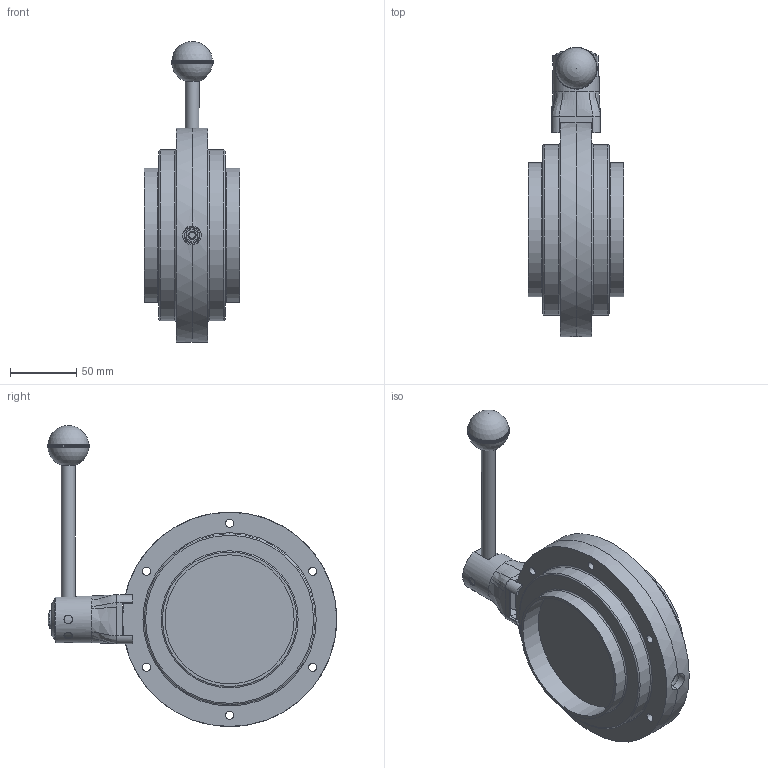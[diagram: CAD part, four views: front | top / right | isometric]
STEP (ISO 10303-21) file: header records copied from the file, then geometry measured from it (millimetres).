
FILE_DESCRIPTION(/* description */ ('VVF VALV.FARF.DN101.6 S/S EPDM 316 LEVA INOX 3POS.'),/* implementation_level */ '2;1');
FILE_NAME(/* name */ 'C:\_DED_PWS\ZIGN-L\DB\B\EBA\BEBAAL400BEBV-00^SAGOMA.step',/* time_stamp */ '2023-03-07T10:04:29+01:00',/* author */ (''),/* organization */ (''),/* preprocessor_version */ 'ST-DEVELOPER v18.1',/* originating_system */ 'Autodesk Inventor 2022',/* authorisation */ '');
FILE_SCHEMA (('CONFIG_CONTROL_DESIGN'));
Length unit declared in the file: millimetre
Products named in the file (3): BEBAAL400BEBV; TNU430100AAA; TWDBB1003
Assembly tree (3 placements, depth 2):
  BEBAAL400BEBV
    TNU430100AAA
    TWDBB1003  x2
Bounding box: 72 x 218.83 x 227.48 mm (x, y, z)
Volume: 794660.5 mm3; surface area: 155113.3 mm2
Topology: 5 solids, 6 shells, 556 faces, 1344 edges, 882 vertices
Faces by surface type: plane 364, torus 84, cylinder 56, bspline 38, cone 10, sphere 4
Full cylindrical faces by diameter (mm): 6 x2, 6.2 x12, 6.5 x3, 9 x2, 9.3 x1, 10 x1, 10.4 x1, 10.5 x1, 10.9 x1, 11.1 x2, 11.5 x2, 13.4 x1, 14.9 x1, 15.2 x1, 31.2 x1, 31.4 x1, 35.2 x1, 97.6 x2, 101.6 x2, 129 x2, 162 x2
Entity records: 22325 total; most frequent: CARTESIAN_POINT 9298, DIRECTION 2619, ORIENTED_EDGE 2578, EDGE_CURVE 1289, AXIS2_PLACEMENT_3D 1067, VERTEX_POINT 847, EDGE_LOOP 638, CIRCLE 563
